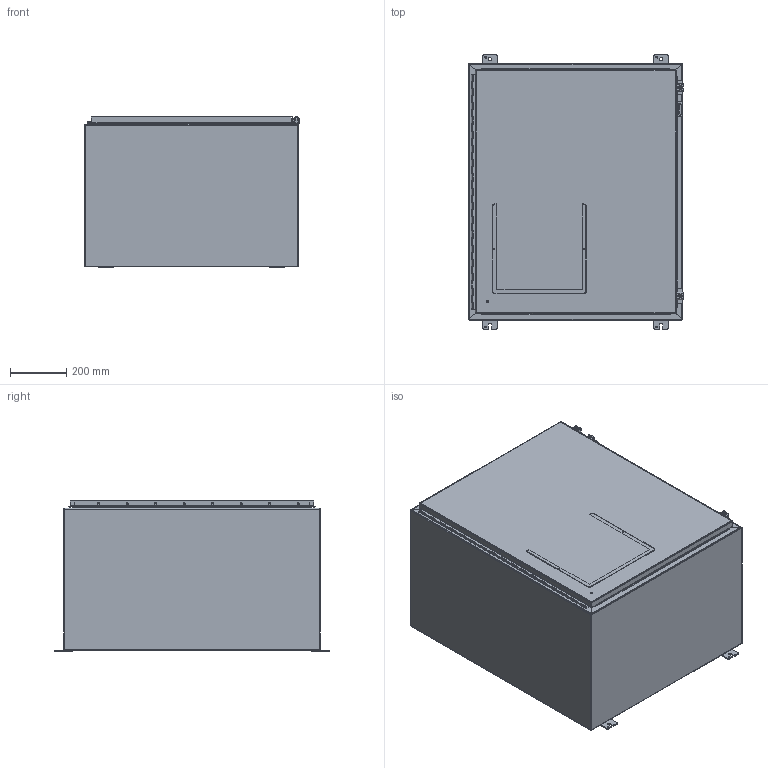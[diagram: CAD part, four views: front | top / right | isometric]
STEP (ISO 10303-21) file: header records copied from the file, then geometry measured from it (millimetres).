
FILE_DESCRIPTION (( 'STEP AP203' ), '1' );
FILE_NAME ('a363020lp.STEP', '2010-08-26T18:56:49', ( 'Hoffman User' ), ( 'Hoffman Enclosures' ), 'SwSTEP 2.0', 'SolidWorks 2009', '' );
FILE_SCHEMA (( 'CONFIG_CONTROL_DESIGN' ));
Length unit declared in the file: inch
Products named in the file (23): 22285030_default; 22112001_AFTER WELD; 22230001; 89042959; 87931362_87931362; 87932903; 23418001; 22103001_Free; a363020lp; 89042990_DOOR CLOSED; 22362065; 22118706_22118701; 22118306; 22110001; 22132003; 22351011; 22118006; 22107001; 99411210_Config-Drawing; 91307100; 87560041; 22101001; 22104006_SL-HHMS 0.25-28x0.875x0.875-N
Assembly tree (36 placements, depth 4):
  a363020lp
    23418001
    87932903  x2
    89042990_DOOR CLOSED
      22230001  x2
      89042959
        22107001
        22351011
        22118006
        87931362_87931362  x2
        99411210_Config-Drawing
      22112001_AFTER WELD  x6
      22285030_default  x2
      22110001  x4
      22118306
      22118706_22118701
      22132003
      22362065
    91307100  x2
      22101001
      22104006_SL-HHMS 0.25-28x0.875x0.875-N
      87560041
      22103001_Free
Bounding box: 765.51 x 977.9 x 541.16 mm (x, y, z)
Volume: 6358020.4 mm3; surface area: 6902022.3 mm2
Topology: 37 solids, 37 shells, 3195 faces, 8394 edges, 5404 vertices
Faces by surface type: plane 1523, bspline 1039, cylinder 499, torus 78, cone 52, sphere 4
Entity records: 137158 total; most frequent: CARTESIAN_POINT 77322, ORIENTED_EDGE 13402, DIRECTION 8921, EDGE_CURVE 6701, VERTEX_POINT 4360, VECTOR 4283, LINE 4283, EDGE_LOOP 2661
